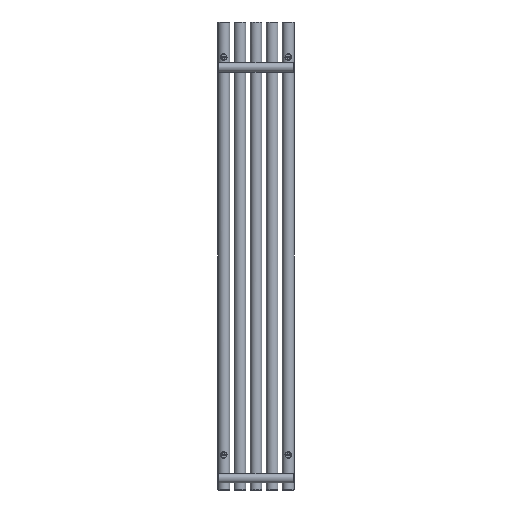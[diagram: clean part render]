
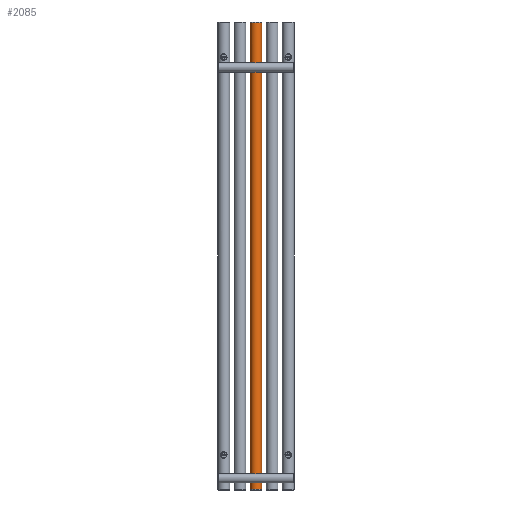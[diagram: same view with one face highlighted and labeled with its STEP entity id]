
A CAD part, front view. The second image highlights one B-rep face of the part: STEP entity #2085.
In plain terms, the highlighted cylindrical face has radius 20 mm (diameter 40 mm), a full revolution.
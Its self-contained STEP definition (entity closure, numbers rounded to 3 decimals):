
#169=FACE_BOUND('',#527,.T.);
#170=FACE_BOUND('',#528,.T.);
#199=LINE('',#4043,#273);
#273=VECTOR('',#2599,20.);
#347=CYLINDRICAL_SURFACE('',#2275,20.);
#381=FACE_OUTER_BOUND('',#526,.T.);
#526=EDGE_LOOP('',(#1470,#1471,#1472,#1473,#1474));
#527=EDGE_LOOP('',(#1475));
#528=EDGE_LOOP('',(#1476));
#692=B_SPLINE_CURVE_WITH_KNOTS('',3,(#4018,#4019,#4020,#4021,#4022,#4023,
#4024,#4025,#4026,#4027,#4028,#4029,#4030,#4031,#4032,#4033,#4034,#4035,
#4036,#4037),.UNSPECIFIED.,.T.,.F.,(4,1,1,1,1,1,1,1,1,1,1,1,1,1,1,1,1,4),
(-5.132,-4.765,-4.399,-3.91,
-3.666,-3.421,-3.177,-2.933,
-2.444,-2.322,-2.199,-1.955,
-1.711,-1.466,-1.1,-0.733,
-0.367,0.),.UNSPECIFIED.);
#693=B_SPLINE_CURVE_WITH_KNOTS('',3,(#4047,#4048,#4049,#4050,#4051,#4052,
#4053,#4054,#4055,#4056,#4057,#4058,#4059,#4060,#4061,#4062,#4063,#4064),
 .UNSPECIFIED.,.T.,.F.,(4,1,1,1,1,1,1,1,1,1,1,1,1,1,1,4),(-5.132,
-4.765,-4.399,-3.91,-3.666,
-3.421,-3.177,-2.933,-2.444,
-2.199,-1.955,-1.466,-1.1,
-0.733,-0.367,0.),.UNSPECIFIED.);
#749=CIRCLE('',#2276,20.);
#750=CIRCLE('',#2277,20.);
#751=CIRCLE('',#2278,20.);
#918=VERTEX_POINT('',#4016);
#919=VERTEX_POINT('',#4039);
#920=VERTEX_POINT('',#4040);
#921=VERTEX_POINT('',#4042);
#922=VERTEX_POINT('',#4046);
#1140=EDGE_CURVE('',#918,#918,#692,.T.);
#1141=EDGE_CURVE('',#919,#920,#749,.T.);
#1142=EDGE_CURVE('',#919,#921,#199,.T.);
#1143=EDGE_CURVE('',#921,#921,#750,.T.);
#1144=EDGE_CURVE('',#920,#919,#751,.T.);
#1145=EDGE_CURVE('',#922,#922,#693,.T.);
#1470=ORIENTED_EDGE('',*,*,#1141,.F.);
#1471=ORIENTED_EDGE('',*,*,#1142,.T.);
#1472=ORIENTED_EDGE('',*,*,#1143,.F.);
#1473=ORIENTED_EDGE('',*,*,#1142,.F.);
#1474=ORIENTED_EDGE('',*,*,#1144,.F.);
#1475=ORIENTED_EDGE('',*,*,#1145,.F.);
#1476=ORIENTED_EDGE('',*,*,#1140,.F.);
#2085=ADVANCED_FACE('',(#381,#169,#170),#347,.T.);
#2275=AXIS2_PLACEMENT_3D('',#4038,#2595,#2596);
#2276=AXIS2_PLACEMENT_3D('',#4041,#2597,#2598);
#2277=AXIS2_PLACEMENT_3D('',#4044,#2600,#2601);
#2278=AXIS2_PLACEMENT_3D('',#4045,#2602,#2603);
#2595=DIRECTION('center_axis',(0.,0.,1.));
#2596=DIRECTION('ref_axis',(-1.,0.,0.));
#2597=DIRECTION('center_axis',(0.,0.,1.));
#2598=DIRECTION('ref_axis',(-1.,0.,0.));
#2599=DIRECTION('',(0.,0.,-1.));
#2600=DIRECTION('center_axis',(0.,0.,-1.));
#2601=DIRECTION('ref_axis',(-1.,0.,0.));
#2602=DIRECTION('center_axis',(0.,0.,1.));
#2603=DIRECTION('ref_axis',(-1.,0.,0.));
#4016=CARTESIAN_POINT('',(-110.,-20.,50.1));
#4018=CARTESIAN_POINT('Ctrl Pts',(-110.,-20.,50.1));
#4019=CARTESIAN_POINT('Ctrl Pts',(-111.611,-20.,50.1));
#4020=CARTESIAN_POINT('Ctrl Pts',(-114.83,-19.61,49.58));
#4021=CARTESIAN_POINT('Ctrl Pts',(-119.319,-17.858,46.75));
#4022=CARTESIAN_POINT('Ctrl Pts',(-121.21,-16.549,41.99));
#4023=CARTESIAN_POINT('Ctrl Pts',(-120.866,-16.799,37.471));
#4024=CARTESIAN_POINT('Ctrl Pts',(-119.65,-17.551,34.432));
#4025=CARTESIAN_POINT('Ctrl Pts',(-117.534,-18.591,32.08));
#4026=CARTESIAN_POINT('Ctrl Pts',(-113.837,-19.818,30.087));
#4027=CARTESIAN_POINT('Ctrl Pts',(-109.97,-20.157,29.697));
#4028=CARTESIAN_POINT('Ctrl Pts',(-106.807,-19.763,30.226));
#4029=CARTESIAN_POINT('Ctrl Pts',(-104.776,-19.355,30.833));
#4030=CARTESIAN_POINT('Ctrl Pts',(-102.467,-18.591,32.083));
#4031=CARTESIAN_POINT('Ctrl Pts',(-100.35,-17.555,34.429));
#4032=CARTESIAN_POINT('Ctrl Pts',(-98.928,-16.663,37.98));
#4033=CARTESIAN_POINT('Ctrl Pts',(-98.922,-16.658,42.598));
#4034=CARTESIAN_POINT('Ctrl Pts',(-101.135,-18.048,47.029));
#4035=CARTESIAN_POINT('Ctrl Pts',(-105.165,-19.6,49.585));
#4036=CARTESIAN_POINT('Ctrl Pts',(-108.389,-20.,50.1));
#4037=CARTESIAN_POINT('Ctrl Pts',(-110.,-20.,50.1));
#4038=CARTESIAN_POINT('Origin',(-110.,0.,0.));
#4039=CARTESIAN_POINT('',(-90.,0.,1598.));
#4040=CARTESIAN_POINT('',(-130.,0.,1598.));
#4041=CARTESIAN_POINT('Origin',(-110.,0.,1598.));
#4042=CARTESIAN_POINT('',(-90.,0.,2.));
#4043=CARTESIAN_POINT('',(-90.,0.,0.));
#4044=CARTESIAN_POINT('Origin',(-110.,0.,2.));
#4045=CARTESIAN_POINT('Origin',(-110.,0.,1598.));
#4046=CARTESIAN_POINT('',(-110.,-20.,1455.1));
#4047=CARTESIAN_POINT('Ctrl Pts',(-110.,-20.,1455.1));
#4048=CARTESIAN_POINT('Ctrl Pts',(-111.611,-20.,1455.1));
#4049=CARTESIAN_POINT('Ctrl Pts',(-114.83,-19.611,1454.58));
#4050=CARTESIAN_POINT('Ctrl Pts',(-119.319,-17.859,1451.751));
#4051=CARTESIAN_POINT('Ctrl Pts',(-121.21,-16.549,1446.99));
#4052=CARTESIAN_POINT('Ctrl Pts',(-120.866,-16.8,1442.471));
#4053=CARTESIAN_POINT('Ctrl Pts',(-119.651,-17.553,1439.431));
#4054=CARTESIAN_POINT('Ctrl Pts',(-117.534,-18.59,1437.081));
#4055=CARTESIAN_POINT('Ctrl Pts',(-113.838,-19.82,1435.089));
#4056=CARTESIAN_POINT('Ctrl Pts',(-109.416,-20.202,1434.636));
#4057=CARTESIAN_POINT('Ctrl Pts',(-105.244,-19.505,1435.585));
#4058=CARTESIAN_POINT('Ctrl Pts',(-101.526,-18.282,1437.562));
#4059=CARTESIAN_POINT('Ctrl Pts',(-98.913,-16.657,1441.802));
#4060=CARTESIAN_POINT('Ctrl Pts',(-98.931,-16.662,1447.609));
#4061=CARTESIAN_POINT('Ctrl Pts',(-101.132,-18.046,1452.026));
#4062=CARTESIAN_POINT('Ctrl Pts',(-105.167,-19.601,1454.588));
#4063=CARTESIAN_POINT('Ctrl Pts',(-108.389,-20.,1455.1));
#4064=CARTESIAN_POINT('Ctrl Pts',(-110.,-20.,1455.1));
